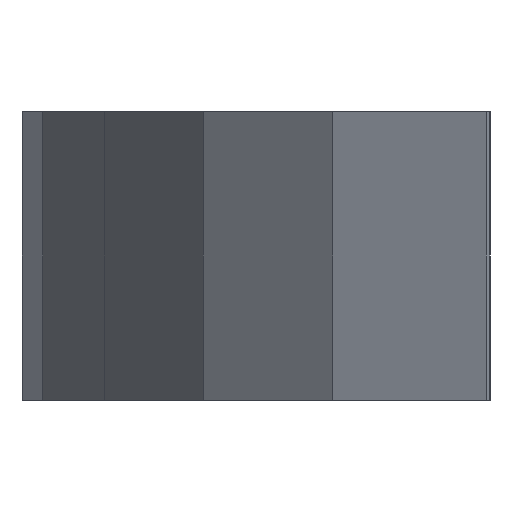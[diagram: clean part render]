
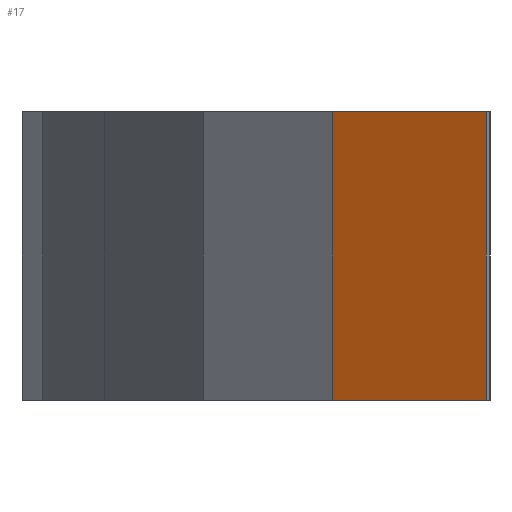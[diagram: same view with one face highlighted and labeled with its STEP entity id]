
A CAD part, left-side view. The second image highlights one B-rep face of the part: STEP entity #17.
In plain terms, the highlighted planar face has unit normal (-0.858, 0.514, 0).
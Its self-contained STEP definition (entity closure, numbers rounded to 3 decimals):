
#17 = ADVANCED_FACE('',(#18),#32,.F.);
#18 = FACE_BOUND('',#19,.F.);
#19 = EDGE_LOOP('',(#20,#55,#80,#108));
#20 = ORIENTED_EDGE('',*,*,#21,.T.);
#21 = EDGE_CURVE('',#22,#24,#26,.T.);
#22 = VERTEX_POINT('',#23);
#23 = CARTESIAN_POINT('',(-170.084,52.671,-17.));
#24 = VERTEX_POINT('',#25);
#25 = CARTESIAN_POINT('',(-150.056,86.116,-17.));
#26 = SURFACE_CURVE('',#27,(#31,#43),.PCURVE_S1.);
#27 = LINE('',#28,#29);
#28 = CARTESIAN_POINT('',(-170.084,52.671,-17.));
#29 = VECTOR('',#30,1.);
#30 = DIRECTION('',(0.514,0.858,0.));
#31 = PCURVE('',#32,#37);
#32 = PLANE('',#33);
#33 = AXIS2_PLACEMENT_3D('',#34,#35,#36);
#34 = CARTESIAN_POINT('',(-170.084,52.671,46.));
#35 = DIRECTION('',(0.858,-0.514,0.));
#36 = DIRECTION('',(0.514,0.858,0.));
#37 = DEFINITIONAL_REPRESENTATION('',(#38),#42);
#38 = LINE('',#39,#40);
#39 = CARTESIAN_POINT('',(0.,-63.));
#40 = VECTOR('',#41,1.);
#41 = DIRECTION('',(1.,0.));
#42 = ( GEOMETRIC_REPRESENTATION_CONTEXT(2) 
PARAMETRIC_REPRESENTATION_CONTEXT() REPRESENTATION_CONTEXT('2D SPACE',''
  ) );
#43 = PCURVE('',#44,#49);
#44 = PLANE('',#45);
#45 = AXIS2_PLACEMENT_3D('',#46,#47,#48);
#46 = CARTESIAN_POINT('',(-170.084,52.671,-17.));
#47 = DIRECTION('',(0.,0.,1.));
#48 = DIRECTION('',(1.,0.,-0.));
#49 = DEFINITIONAL_REPRESENTATION('',(#50),#54);
#50 = LINE('',#51,#52);
#51 = CARTESIAN_POINT('',(0.,0.));
#52 = VECTOR('',#53,1.);
#53 = DIRECTION('',(0.514,0.858));
#54 = ( GEOMETRIC_REPRESENTATION_CONTEXT(2) 
PARAMETRIC_REPRESENTATION_CONTEXT() REPRESENTATION_CONTEXT('2D SPACE',''
  ) );
#55 = ORIENTED_EDGE('',*,*,#56,.T.);
#56 = EDGE_CURVE('',#24,#57,#59,.T.);
#57 = VERTEX_POINT('',#58);
#58 = CARTESIAN_POINT('',(-150.056,86.116,46.));
#59 = SURFACE_CURVE('',#60,(#63,#69),.PCURVE_S1.);
#60 = B_SPLINE_CURVE_WITH_KNOTS('',1,(#61,#62),.UNSPECIFIED.,.F.,.F.,(2,
    2),(0.,1.),.PIECEWISE_BEZIER_KNOTS.);
#61 = CARTESIAN_POINT('',(-150.056,86.116,-17.));
#62 = CARTESIAN_POINT('',(-150.056,86.116,46.));
#63 = PCURVE('',#32,#64);
#64 = DEFINITIONAL_REPRESENTATION('',(#65),#68);
#65 = B_SPLINE_CURVE_WITH_KNOTS('',1,(#66,#67),.UNSPECIFIED.,.F.,.F.,(2,
    2),(0.,1.),.PIECEWISE_BEZIER_KNOTS.);
#66 = CARTESIAN_POINT('',(38.983,-63.));
#67 = CARTESIAN_POINT('',(38.983,0.));
#68 = ( GEOMETRIC_REPRESENTATION_CONTEXT(2) 
PARAMETRIC_REPRESENTATION_CONTEXT() REPRESENTATION_CONTEXT('2D SPACE',''
  ) );
#69 = PCURVE('',#70,#75);
#70 = PLANE('',#71);
#71 = AXIS2_PLACEMENT_3D('',#72,#73,#74);
#72 = CARTESIAN_POINT('',(-150.056,86.116,46.));
#73 = DIRECTION('',(0.699,-0.715,0.));
#74 = DIRECTION('',(0.715,0.699,0.));
#75 = DEFINITIONAL_REPRESENTATION('',(#76),#79);
#76 = B_SPLINE_CURVE_WITH_KNOTS('',1,(#77,#78),.UNSPECIFIED.,.F.,.F.,(2,
    2),(0.,1.),.PIECEWISE_BEZIER_KNOTS.);
#77 = CARTESIAN_POINT('',(0.,-63.));
#78 = CARTESIAN_POINT('',(0.,0.));
#79 = ( GEOMETRIC_REPRESENTATION_CONTEXT(2) 
PARAMETRIC_REPRESENTATION_CONTEXT() REPRESENTATION_CONTEXT('2D SPACE',''
  ) );
#80 = ORIENTED_EDGE('',*,*,#81,.F.);
#81 = EDGE_CURVE('',#82,#57,#84,.T.);
#82 = VERTEX_POINT('',#83);
#83 = CARTESIAN_POINT('',(-170.084,52.671,46.));
#84 = SURFACE_CURVE('',#85,(#89,#96),.PCURVE_S1.);
#85 = LINE('',#86,#87);
#86 = CARTESIAN_POINT('',(-170.084,52.671,46.));
#87 = VECTOR('',#88,1.);
#88 = DIRECTION('',(0.514,0.858,0.));
#89 = PCURVE('',#32,#90);
#90 = DEFINITIONAL_REPRESENTATION('',(#91),#95);
#91 = LINE('',#92,#93);
#92 = CARTESIAN_POINT('',(0.,0.));
#93 = VECTOR('',#94,1.);
#94 = DIRECTION('',(1.,0.));
#95 = ( GEOMETRIC_REPRESENTATION_CONTEXT(2) 
PARAMETRIC_REPRESENTATION_CONTEXT() REPRESENTATION_CONTEXT('2D SPACE',''
  ) );
#96 = PCURVE('',#97,#102);
#97 = PLANE('',#98);
#98 = AXIS2_PLACEMENT_3D('',#99,#100,#101);
#99 = CARTESIAN_POINT('',(-170.084,52.671,46.));
#100 = DIRECTION('',(0.,0.,1.));
#101 = DIRECTION('',(1.,0.,-0.));
#102 = DEFINITIONAL_REPRESENTATION('',(#103),#107);
#103 = LINE('',#104,#105);
#104 = CARTESIAN_POINT('',(0.,0.));
#105 = VECTOR('',#106,1.);
#106 = DIRECTION('',(0.514,0.858));
#107 = ( GEOMETRIC_REPRESENTATION_CONTEXT(2) 
PARAMETRIC_REPRESENTATION_CONTEXT() REPRESENTATION_CONTEXT('2D SPACE',''
  ) );
#108 = ORIENTED_EDGE('',*,*,#109,.F.);
#109 = EDGE_CURVE('',#22,#82,#110,.T.);
#110 = SURFACE_CURVE('',#111,(#114,#120),.PCURVE_S1.);
#111 = B_SPLINE_CURVE_WITH_KNOTS('',1,(#112,#113),.UNSPECIFIED.,.F.,.F.,
  (2,2),(0.,1.),.PIECEWISE_BEZIER_KNOTS.);
#112 = CARTESIAN_POINT('',(-170.084,52.671,-17.));
#113 = CARTESIAN_POINT('',(-170.084,52.671,46.));
#114 = PCURVE('',#32,#115);
#115 = DEFINITIONAL_REPRESENTATION('',(#116),#119);
#116 = B_SPLINE_CURVE_WITH_KNOTS('',1,(#117,#118),.UNSPECIFIED.,.F.,.F.,
  (2,2),(0.,1.),.PIECEWISE_BEZIER_KNOTS.);
#117 = CARTESIAN_POINT('',(0.,-63.));
#118 = CARTESIAN_POINT('',(0.,0.));
#119 = ( GEOMETRIC_REPRESENTATION_CONTEXT(2) 
PARAMETRIC_REPRESENTATION_CONTEXT() REPRESENTATION_CONTEXT('2D SPACE',''
  ) );
#120 = PCURVE('',#121,#126);
#121 = PLANE('',#122);
#122 = AXIS2_PLACEMENT_3D('',#123,#124,#125);
#123 = CARTESIAN_POINT('',(-167.735,51.816,46.));
#124 = DIRECTION('',(0.342,0.94,-0.));
#125 = DIRECTION('',(-0.94,0.342,0.));
#126 = DEFINITIONAL_REPRESENTATION('',(#127),#130);
#127 = B_SPLINE_CURVE_WITH_KNOTS('',1,(#128,#129),.UNSPECIFIED.,.F.,.F.,
  (2,2),(0.,1.),.PIECEWISE_BEZIER_KNOTS.);
#128 = CARTESIAN_POINT('',(2.5,-63.));
#129 = CARTESIAN_POINT('',(2.5,0.));
#130 = ( GEOMETRIC_REPRESENTATION_CONTEXT(2) 
PARAMETRIC_REPRESENTATION_CONTEXT() REPRESENTATION_CONTEXT('2D SPACE',''
  ) );
